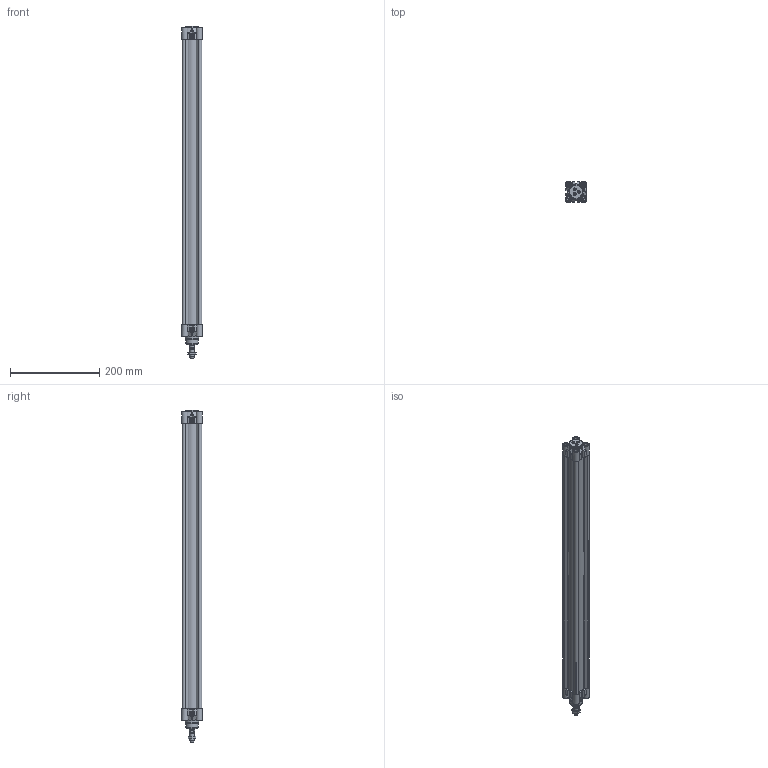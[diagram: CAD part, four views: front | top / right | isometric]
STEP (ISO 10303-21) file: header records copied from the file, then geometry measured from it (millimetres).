
FILE_DESCRIPTION(/* description */ ('Unknown'),/* implementation_level */ '2;1');
FILE_NAME(/* name */ 'HIFO 32_600',/* time_stamp */ '2024-08-13T14:43:32+02:00',/* author */ ('Unknown'),/* organization */ ('Unknown'),/* preprocessor_version */ 'ST-DEVELOPER v16.7',/* originating_system */ 'Solid Edge',/* authorisation */ 'Unknown');
FILE_SCHEMA (('AUTOMOTIVE_DESIGN {1 0 10303 214 3 1 1}'));
Length unit declared in the file: millimetre
Products named in the file (6): HIFO 32_600; Profilrohr 32_600; Kit_1; Mutter; Kit_2; Kolbenstange 32_600
Assembly tree (5 placements, depth 2):
  HIFO 32_600
    Profilrohr 32_600
    Kit_1
    Mutter
    Kit_2
    Kolbenstange 32_600
Bounding box: 47 x 47 x 746 mm (x, y, z)
Volume: 533860.9 mm3; surface area: 371310.4 mm2
Topology: 5 solids, 9 shells, 982 faces, 2506 edges, 1629 vertices
Faces by surface type: cylinder 372, plane 349, cone 98, torus 77, bspline 66, sphere 20
Full cylindrical faces by diameter (mm): 2.1 x1, 3 x1, 3.5 x1, 4.917 x16, 6 x9, 6.2 x8, 7 x1, 7.9 x1, 7.991 x1, 8 x1, 8.56 x1, 8.566 x2, 8.647 x1, 10 x9, 10.3 x8, 11.6 x1, 11.804 x1, 12 x2, 12.8 x1, 12.847 x1, 16 x1, 22 x2, 28 x1, 30 x2, 32 x2
Entity records: 37983 total; most frequent: CARTESIAN_POINT 9489, ORIENTED_EDGE 4876, DIRECTION 4449, EDGE_CURVE 2438, AXIS2_PLACEMENT_3D 1748, VERTEX_POINT 1613, FACE_BOUND 1141, EDGE_LOOP 1133
